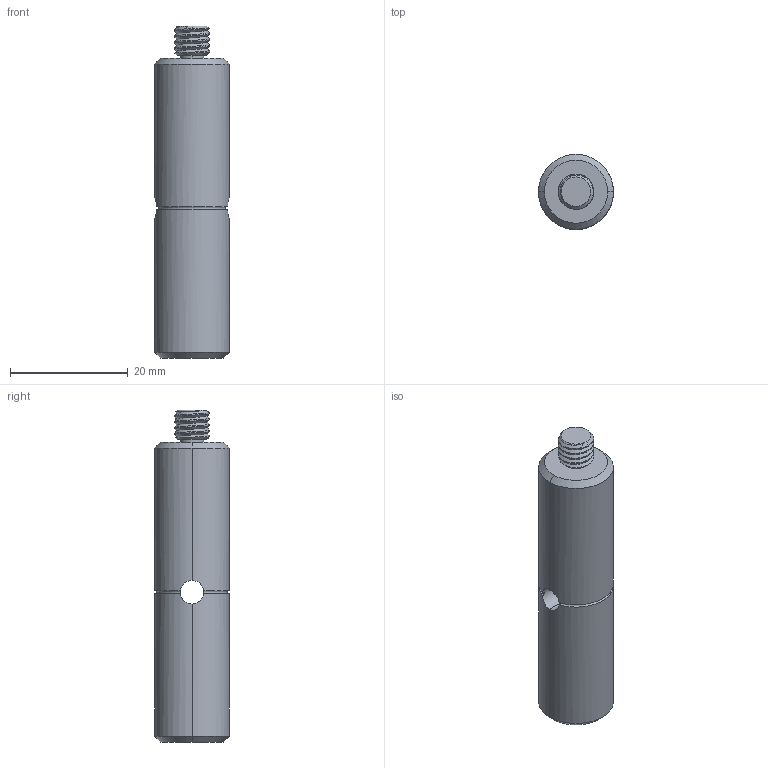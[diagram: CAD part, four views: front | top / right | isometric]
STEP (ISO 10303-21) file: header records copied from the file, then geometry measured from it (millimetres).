
FILE_DESCRIPTION((''),'2;1');
FILE_NAME('PCAH2-A','2023-03-14T14:25:39',('R&D'),(''),'CREO PARAMETRIC BY PTC INC, 2022162','CREO PARAMETRIC BY PTC INC, 2022162','');
FILE_SCHEMA(('CONFIG_CONTROL_DESIGN'));
Length unit declared in the file: millimetre
Products named in the file (1): PCAH2-A
Bounding box: 12.7 x 12.7 x 56.3 mm (x, y, z)
Volume: 6082 mm3; surface area: 2766.4 mm2
Topology: 1 solids, 1 shells, 69 faces, 184 edges, 116 vertices
Faces by surface type: cylinder 37, bspline 14, cone 12, plane 4, torus 2
Entity records: 4775 total; most frequent: CARTESIAN_POINT 3230, ORIENTED_EDGE 364, DIRECTION 229, EDGE_CURVE 182, VERTEX_POINT 116, B_SPLINE_CURVE_WITH_KNOTS 93, AXIS2_PLACEMENT_3D 85, EDGE_LOOP 72
